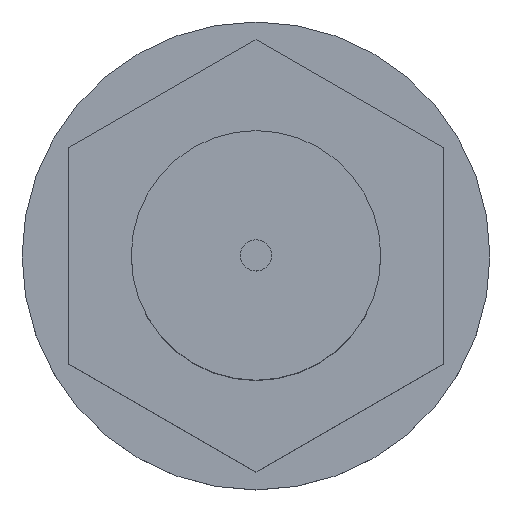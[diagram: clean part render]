
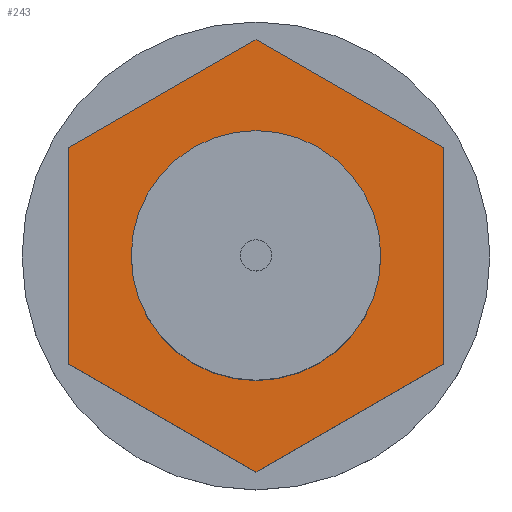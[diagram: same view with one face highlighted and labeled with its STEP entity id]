
A CAD part, top view. The second image highlights one B-rep face of the part: STEP entity #243.
In plain terms, the highlighted planar face has unit normal (0, 0, 1) as drawn and (-1, 0, 0) by its records, which use the part's own axes.
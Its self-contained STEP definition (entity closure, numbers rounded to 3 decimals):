
#3 = VERTEX_POINT ( 'NONE', #420 ) ;
#4 = ORIENTED_EDGE ( 'NONE', *, *, #5, .T. ) ;
#5 = EDGE_CURVE ( 'NONE', #3, #6, #419, .T. ) ;
#6 = VERTEX_POINT ( 'NONE', #415 ) ;
#7 = ORIENTED_EDGE ( 'NONE', *, *, #8, .T. ) ;
#8 = EDGE_CURVE ( 'NONE', #6, #9, #414, .T. ) ;
#9 = VERTEX_POINT ( 'NONE', #410 ) ;
#10 = VERTEX_POINT ( 'NONE', #409 ) ;
#11 = ORIENTED_EDGE ( 'NONE', *, *, #12, .T. ) ;
#12 = EDGE_CURVE ( 'NONE', #9, #10, #408, .T. ) ;
#13 = ORIENTED_EDGE ( 'NONE', *, *, #14, .T. ) ;
#14 = EDGE_CURVE ( 'NONE', #10, #15, #404, .T. ) ;
#15 = VERTEX_POINT ( 'NONE', #361 ) ;
#16 = ORIENTED_EDGE ( 'NONE', *, *, #17, .T. ) ;
#17 = EDGE_CURVE ( 'NONE', #15, #247, #360, .T. ) ;
#18 = EDGE_LOOP ( 'NONE', ( #19, #20 ) ) ;
#19 = ORIENTED_EDGE ( 'NONE', *, *, #29, .F. ) ;
#20 = ORIENTED_EDGE ( 'NONE', *, *, #21, .F. ) ;
#21 = EDGE_CURVE ( 'NONE', #31, #30, #356, .T. ) ;
#29 = EDGE_CURVE ( 'NONE', #30, #31, #337, .T. ) ;
#30 = VERTEX_POINT ( 'NONE', #333 ) ;
#31 = VERTEX_POINT ( 'NONE', #332 ) ;
#243 = ADVANCED_FACE ( 'NONE', ( #923, #922 ), #921, .F. ) ;
#244 = EDGE_LOOP ( 'NONE', ( #245, #4, #7, #11, #13, #16 ) ) ;
#245 = ORIENTED_EDGE ( 'NONE', *, *, #246, .T. ) ;
#246 = EDGE_CURVE ( 'NONE', #247, #3, #916, .T. ) ;
#247 = VERTEX_POINT ( 'NONE', #912 ) ;
#332 = CARTESIAN_POINT ( 'NONE',  ( 7., -2., 3.464 ) ) ;
#333 = CARTESIAN_POINT ( 'NONE',  ( 7., 2., -3.464 ) ) ;
#334 = DIRECTION ( 'NONE',  ( 0., -0.5, 0.866 ) ) ;
#335 = DIRECTION ( 'NONE',  ( -1., 0., 0. ) ) ;
#336 = AXIS2_PLACEMENT_3D ( 'NONE', #342, #335, #334 ) ;
#337 = CIRCLE ( 'NONE', #336, 4. ) ;
#342 = CARTESIAN_POINT ( 'NONE',  ( 7., 0., 0. ) ) ;
#352 = DIRECTION ( 'NONE',  ( 0., -0.5, 0.866 ) ) ;
#353 = DIRECTION ( 'NONE',  ( -1., 0., 0. ) ) ;
#354 = CARTESIAN_POINT ( 'NONE',  ( 7., 0., 0. ) ) ;
#355 = AXIS2_PLACEMENT_3D ( 'NONE', #354, #353, #352 ) ;
#356 = CIRCLE ( 'NONE', #355, 4. ) ;
#357 = DIRECTION ( 'NONE',  ( 0., 0.5, -0.866 ) ) ;
#358 = VECTOR ( 'NONE', #357, 1000. ) ;
#359 = CARTESIAN_POINT ( 'NONE',  ( 7., 3.464, 6. ) ) ;
#360 = LINE ( 'NONE', #359, #358 ) ;
#361 = CARTESIAN_POINT ( 'NONE',  ( 7., 3.464, 6. ) ) ;
#401 = DIRECTION ( 'NONE',  ( 0., 1., 0. ) ) ;
#402 = VECTOR ( 'NONE', #401, 1000. ) ;
#403 = CARTESIAN_POINT ( 'NONE',  ( 7., -3.464, 6. ) ) ;
#404 = LINE ( 'NONE', #403, #402 ) ;
#405 = DIRECTION ( 'NONE',  ( 0., 0.5, 0.866 ) ) ;
#406 = VECTOR ( 'NONE', #405, 1000. ) ;
#407 = CARTESIAN_POINT ( 'NONE',  ( 7., -6.928, 0. ) ) ;
#408 = LINE ( 'NONE', #407, #406 ) ;
#409 = CARTESIAN_POINT ( 'NONE',  ( 7., -3.464, 6. ) ) ;
#410 = CARTESIAN_POINT ( 'NONE',  ( 7., -6.928, 0. ) ) ;
#411 = DIRECTION ( 'NONE',  ( 0., -0.5, 0.866 ) ) ;
#412 = VECTOR ( 'NONE', #411, 1000. ) ;
#413 = CARTESIAN_POINT ( 'NONE',  ( 7., -3.464, -6. ) ) ;
#414 = LINE ( 'NONE', #413, #412 ) ;
#415 = CARTESIAN_POINT ( 'NONE',  ( 7., -3.464, -6. ) ) ;
#416 = DIRECTION ( 'NONE',  ( 0., -1., 0. ) ) ;
#417 = VECTOR ( 'NONE', #416, 1000. ) ;
#418 = CARTESIAN_POINT ( 'NONE',  ( 7., 3.464, -6. ) ) ;
#419 = LINE ( 'NONE', #418, #417 ) ;
#420 = CARTESIAN_POINT ( 'NONE',  ( 7., 3.464, -6. ) ) ;
#912 = CARTESIAN_POINT ( 'NONE',  ( 7., 6.928, 0. ) ) ;
#913 = DIRECTION ( 'NONE',  ( 0., -0.5, -0.866 ) ) ;
#914 = VECTOR ( 'NONE', #913, 1000. ) ;
#915 = CARTESIAN_POINT ( 'NONE',  ( 7., 6.928, 0. ) ) ;
#916 = LINE ( 'NONE', #915, #914 ) ;
#917 = DIRECTION ( 'NONE',  ( 0., 0.5, -0.866 ) ) ;
#918 = DIRECTION ( 'NONE',  ( 1., 0., 0. ) ) ;
#919 = CARTESIAN_POINT ( 'NONE',  ( 7., 10.392, 6. ) ) ;
#920 = AXIS2_PLACEMENT_3D ( 'NONE', #919, #918, #917 ) ;
#921 = PLANE ( 'NONE',  #920 ) ;
#922 = FACE_BOUND ( 'NONE', #18, .T. ) ;
#923 = FACE_OUTER_BOUND ( 'NONE', #244, .T. ) ;
